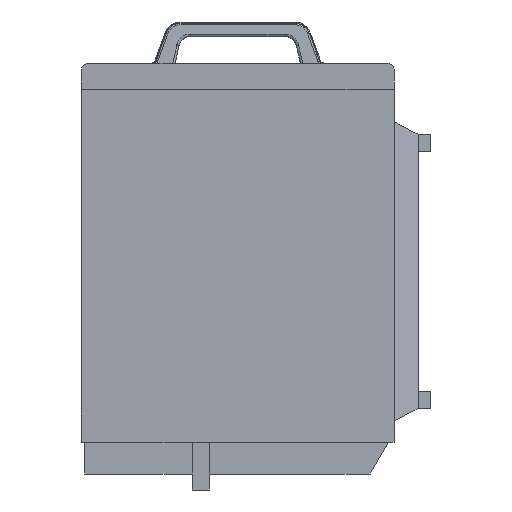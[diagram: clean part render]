
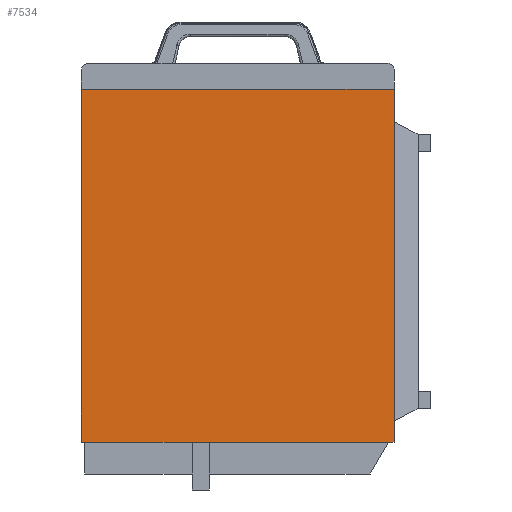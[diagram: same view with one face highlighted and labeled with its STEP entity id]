
A CAD part, left-side view. The second image highlights one B-rep face of the part: STEP entity #7534.
In plain terms, the highlighted planar face has unit normal (-1, 0, 0).
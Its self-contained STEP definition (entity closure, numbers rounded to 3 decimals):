
#519 = VECTOR ( 'NONE', #3174, 1000. ) ;
#664 = DIRECTION ( 'NONE',  ( 0., -1., 0. ) ) ;
#700 = DIRECTION ( 'NONE',  ( 0., -1., 0. ) ) ;
#961 = DIRECTION ( 'NONE',  ( 0., -1., 0. ) ) ;
#1148 = EDGE_CURVE ( 'NONE', #2791, #7956, #14249, .T. ) ;
#2173 = CARTESIAN_POINT ( 'NONE',  ( 0., 32., 0. ) ) ;
#2177 = VECTOR ( 'NONE', #961, 1000. ) ;
#2492 = DIRECTION ( 'NONE',  ( 0., -1., 0. ) ) ;
#2543 = EDGE_CURVE ( 'NONE', #7956, #15668, #8287, .T. ) ;
#2722 = LINE ( 'NONE', #9295, #6386 ) ;
#2791 = VERTEX_POINT ( 'NONE', #15186 ) ;
#2980 = FACE_OUTER_BOUND ( 'NONE', #11547, .T. ) ;
#3174 = DIRECTION ( 'NONE',  ( 0., -1., 0. ) ) ;
#3261 = ORIENTED_EDGE ( 'NONE', *, *, #14345, .F. ) ;
#3363 = PLANE ( 'NONE',  #4477 ) ;
#3418 = DIRECTION ( 'NONE',  ( 1., 0., 0. ) ) ;
#3793 = LINE ( 'NONE', #5573, #519 ) ;
#3997 = CARTESIAN_POINT ( 'NONE',  ( 0., 32., -23. ) ) ;
#4468 = VECTOR ( 'NONE', #664, 1000. ) ;
#4477 = AXIS2_PLACEMENT_3D ( 'NONE', #2173, #3418, #11991 ) ;
#5351 = ORIENTED_EDGE ( 'NONE', *, *, #6242, .T. ) ;
#5573 = CARTESIAN_POINT ( 'NONE',  ( 0., 32., -332. ) ) ;
#6050 = ORIENTED_EDGE ( 'NONE', *, *, #1148, .T. ) ;
#6242 = EDGE_CURVE ( 'NONE', #15668, #8159, #3793, .T. ) ;
#6386 = VECTOR ( 'NONE', #700, 1000. ) ;
#6481 = DIRECTION ( 'NONE',  ( 0., 0., -1. ) ) ;
#6799 = LINE ( 'NONE', #3997, #8922 ) ;
#7144 = VERTEX_POINT ( 'NONE', #10642 ) ;
#7203 = VECTOR ( 'NONE', #7556, 1000. ) ;
#7534 = ADVANCED_FACE ( 'NONE', ( #2980 ), #3363, .F. ) ;
#7556 = DIRECTION ( 'NONE',  ( 0., 0., -1. ) ) ;
#7956 = VERTEX_POINT ( 'NONE', #13153 ) ;
#8004 = VERTEX_POINT ( 'NONE', #13313 ) ;
#8159 = VERTEX_POINT ( 'NONE', #15083 ) ;
#8287 = LINE ( 'NONE', #9866, #14399 ) ;
#8424 = ORIENTED_EDGE ( 'NONE', *, *, #12762, .T. ) ;
#8922 = VECTOR ( 'NONE', #12630, 1000. ) ;
#9295 = CARTESIAN_POINT ( 'NONE',  ( 0., 32., -332. ) ) ;
#9565 = CARTESIAN_POINT ( 'NONE',  ( 0., 32., -332. ) ) ;
#9697 = VECTOR ( 'NONE', #6481, 1000. ) ;
#9741 = VERTEX_POINT ( 'NONE', #13890 ) ;
#9866 = CARTESIAN_POINT ( 'NONE',  ( 0., 32., -332. ) ) ;
#10463 = LINE ( 'NONE', #13645, #7203 ) ;
#10642 = CARTESIAN_POINT ( 'NONE',  ( 0., 306., -23. ) ) ;
#11533 = VERTEX_POINT ( 'NONE', #14515 ) ;
#11547 = EDGE_LOOP ( 'NONE', ( #6050, #14101, #5351, #13001, #8424, #14788, #3261, #15391 ) ) ;
#11991 = DIRECTION ( 'NONE',  ( 0., 0., -1. ) ) ;
#12630 = DIRECTION ( 'NONE',  ( 0., -1., 0. ) ) ;
#12762 = EDGE_CURVE ( 'NONE', #8004, #9741, #14828, .T. ) ;
#13001 = ORIENTED_EDGE ( 'NONE', *, *, #13679, .T. ) ;
#13153 = CARTESIAN_POINT ( 'NONE',  ( 0., 303., -332. ) ) ;
#13226 = CARTESIAN_POINT ( 'NONE',  ( 0., 209., -332. ) ) ;
#13313 = CARTESIAN_POINT ( 'NONE',  ( 0., 37., -332. ) ) ;
#13645 = CARTESIAN_POINT ( 'NONE',  ( 0., 306., 0. ) ) ;
#13679 = EDGE_CURVE ( 'NONE', #8159, #8004, #2722, .T. ) ;
#13801 = CARTESIAN_POINT ( 'NONE',  ( 0., 32., 0. ) ) ;
#13890 = CARTESIAN_POINT ( 'NONE',  ( 0., 32., -332. ) ) ;
#14101 = ORIENTED_EDGE ( 'NONE', *, *, #2543, .T. ) ;
#14123 = CARTESIAN_POINT ( 'NONE',  ( 0., 32., -332. ) ) ;
#14249 = LINE ( 'NONE', #14123, #4468 ) ;
#14251 = EDGE_CURVE ( 'NONE', #7144, #2791, #10463, .T. ) ;
#14311 = EDGE_CURVE ( 'NONE', #11533, #9741, #15801, .T. ) ;
#14345 = EDGE_CURVE ( 'NONE', #7144, #11533, #6799, .T. ) ;
#14399 = VECTOR ( 'NONE', #2492, 1000. ) ;
#14515 = CARTESIAN_POINT ( 'NONE',  ( 0., 32., -23. ) ) ;
#14788 = ORIENTED_EDGE ( 'NONE', *, *, #14311, .F. ) ;
#14828 = LINE ( 'NONE', #9565, #2177 ) ;
#15083 = CARTESIAN_POINT ( 'NONE',  ( 0., 194., -332. ) ) ;
#15186 = CARTESIAN_POINT ( 'NONE',  ( 0., 306., -332. ) ) ;
#15391 = ORIENTED_EDGE ( 'NONE', *, *, #14251, .T. ) ;
#15668 = VERTEX_POINT ( 'NONE', #13226 ) ;
#15801 = LINE ( 'NONE', #13801, #9697 ) ;
